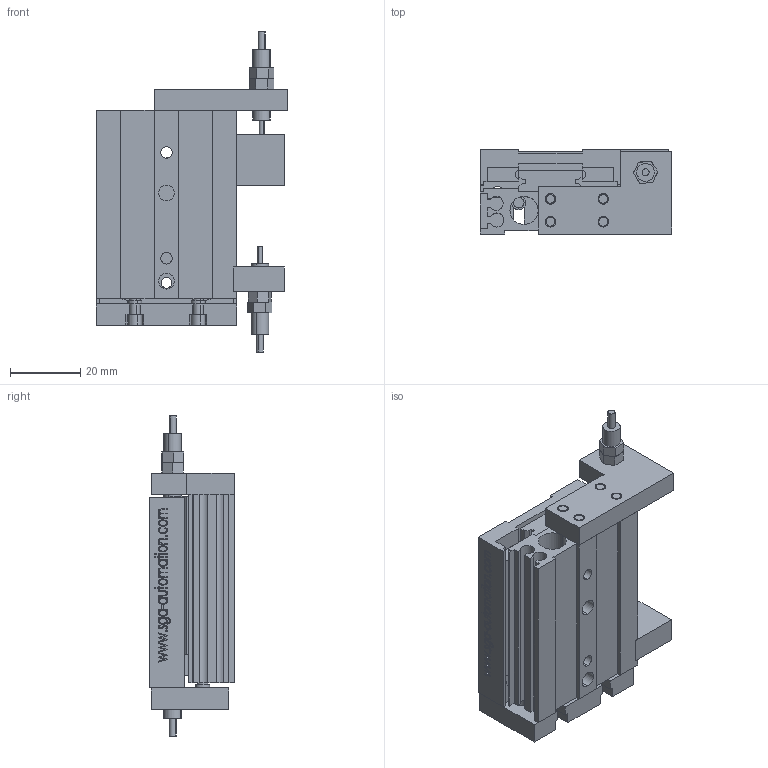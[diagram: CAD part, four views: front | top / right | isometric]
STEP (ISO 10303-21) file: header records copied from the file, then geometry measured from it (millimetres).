
FILE_DESCRIPTION (( 'STEP AP203' ), '1' );
FILE_NAME ('GDX 8-20.STEP', '2013-02-21T15:08:34', ( 'Conseil Régional Haute-Normandie' ), ( 'Conseil Régional Haute-Normandie' ), 'SwSTEP 2.0', 'SolidWorks 2010', '' );
FILE_SCHEMA (( 'CONFIG_CONTROL_DESIGN' ));
Length unit declared in the file: millimetre
Products named in the file (14): Pièce 2 GDX 8-20_Default; Pièce4 GDX 8-20_Default; Pièce4 GDX 8-10_Default; Pièce7 GDX 8-10_Default; Pièce5 GDX 8-10_Default; GDX 8-20; Pièce 1 GDX 8-20_Default; Pièce3 GDX 8-20_Default; Pièce1 GDX 8-10_Default; Pièce2 GDX 8-10_Default; Pièce3 GDX 8-10_Default; Pièce8 GDX 8-10_Default; Pièce6 GDX 8-10_Default; Pièce9 GDX 8-10_Default
Assembly tree (27 placements, depth 2):
  GDX 8-20
    Pièce3 GDX 8-20_Default  x2
    Pièce2 GDX 8-10_Default
    Pièce 1 GDX 8-20_Default
    Pièce1 GDX 8-10_Default
    Pièce5 GDX 8-10_Default  x4
    Pièce6 GDX 8-10_Default  x8
    Pièce 2 GDX 8-20_Default
    Pièce4 GDX 8-20_Default
    Pièce7 GDX 8-10_Default
    Pièce8 GDX 8-10_Default  x2
    Pièce4 GDX 8-10_Default  x2
    Pièce9 GDX 8-10_Default  x2
    Pièce3 GDX 8-10_Default
Bounding box: 54.5 x 24 x 90.87 mm (x, y, z)
Volume: 47460.5 mm3; surface area: 34178.4 mm2
Topology: 27 solids, 27 shells, 722 faces, 1836 edges, 1200 vertices
Faces by surface type: plane 381, cylinder 180, bspline 133, cone 28
Entity records: 30346 total; most frequent: CARTESIAN_POINT 14166, ORIENTED_EDGE 3136, DIRECTION 2548, EDGE_CURVE 1568, LINE 1040, VECTOR 1040, VERTEX_POINT 1040, AXIS2_PLACEMENT_3D 754
